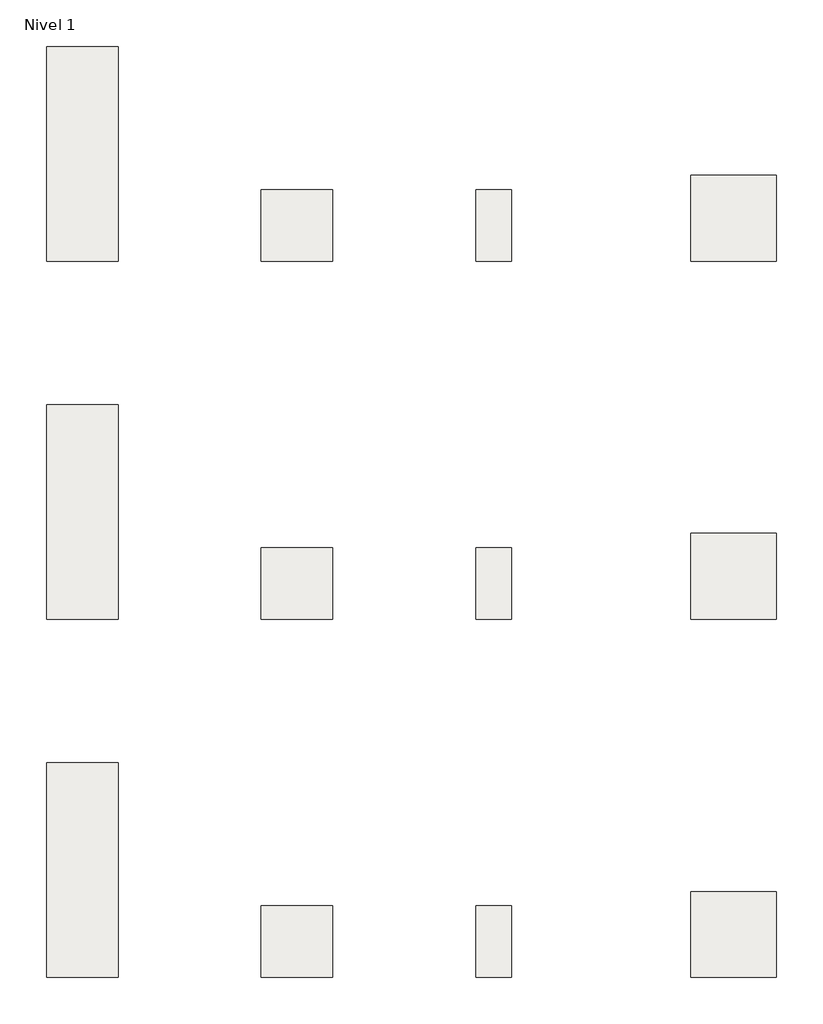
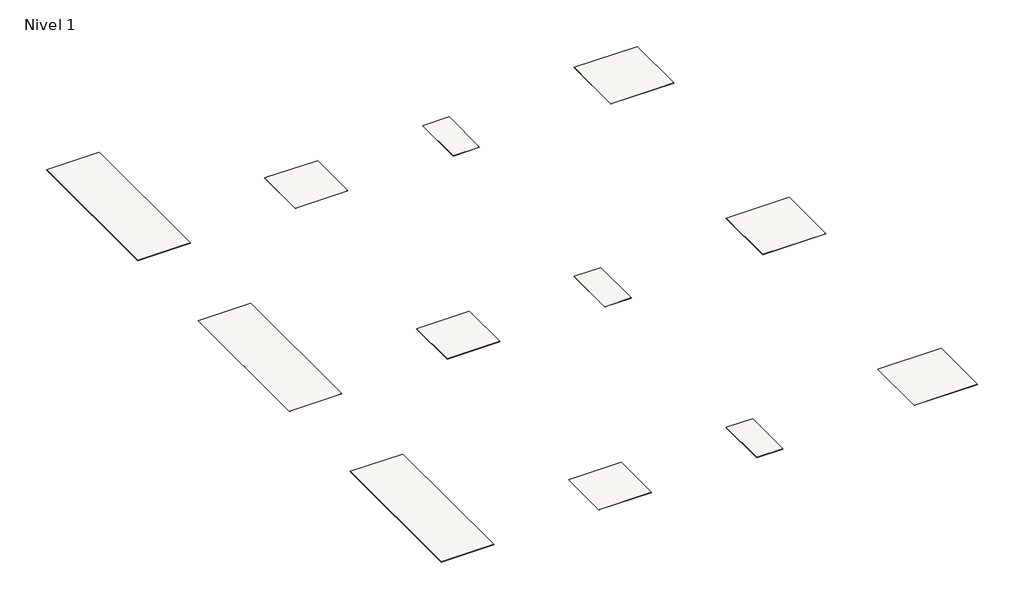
# One storey: 12 slabs.
"""IFC4 building model written with IfcOpenShell, lengths in millimetres."""

import ifcopenshell
import ifcopenshell.guid

model = None  # the IFC model being written
_history = None  # IfcOwnerHistory: only IFC2X3 demands one
_inside = {}  # id of a spatial element -> (the spatial element, [elements in it])
_under = {}  # id of a project, library or spatial element -> (it, [spatial elements below it])
_declared = {}  # id of a project -> (the project, [libraries it declares])
_typed = {}  # id of a type object -> (the type object, [elements of that type])
_made_of = {}  # id of a material, layer set ... -> (it, [elements and type objects made of it])


def new_model(schema):
    """Start an empty IFC model of exactly this schema.

    Asked for "IFC4X3", IfcOpenShell would pick the latest addendum, in which some entities
    have other attributes; the version numbers below select the first issue.
    IFC2X3 requires an IfcOwnerHistory on every rooted entity: one is made here for all.
    """
    global model, _history
    if schema == "IFC4X3":
        model = ifcopenshell.file(schema_version=(4, 3, 0, 0))
    else:
        model = ifcopenshell.file(schema=schema)
    _inside.clear()
    _under.clear()
    _declared.clear()
    _typed.clear()
    _made_of.clear()
    _history = None
    if model.schema == "IFC2X3":
        org = make("IfcOrganization", Name="unknown")
        user = make(
            "IfcPersonAndOrganization",
            ThePerson=make("IfcPerson", FamilyName="unknown"),
            TheOrganization=org,
        )
        app = make(
            "IfcApplication",
            ApplicationDeveloper=org,
            Version="unknown",
            ApplicationFullName="unknown",
            ApplicationIdentifier="unknown",
        )
        _history = make(
            "IfcOwnerHistory",
            OwningUser=user,
            OwningApplication=app,
            ChangeAction="ADDED",
            CreationDate=0,
        )
    return model


def make(cls, **values):
    """One entity of the class cls with the attributes given. An attribute that is None is left unset."""
    return model.create_entity(
        cls, **{name: value for name, value in values.items() if value is not None}
    )


def rooted(cls, **values):
    """An entity with a GlobalId (a new one), such as an element, a storey or a relation."""
    return make(cls, GlobalId=ifcopenshell.guid.new(), OwnerHistory=_history, **values)


def si_unit(unit_type, name, prefix=None):
    """IfcSIUnit, for example si_unit("LENGTHUNIT", "METRE", prefix="MILLI")."""
    return make("IfcSIUnit", UnitType=unit_type, Prefix=prefix, Name=name)


def assignment(units):
    """IfcUnitAssignment: the units of a project."""
    return None if units is None else make("IfcUnitAssignment", Units=units)


def point(xyz):
    """IfcCartesianPoint."""
    return None if xyz is None else make("IfcCartesianPoint", Coordinates=xyz)


def direction(xyz):
    """IfcDirection."""
    return None if xyz is None else make("IfcDirection", DirectionRatios=xyz)


def frame(location, z_axis=None, x_axis=None):
    """IfcAxis2Placement3D, a coordinate frame: its origin and axes. An axis left out is left unset."""
    return make(
        "IfcAxis2Placement3D",
        Location=point(location),
        Axis=direction(z_axis),
        RefDirection=direction(x_axis),
    )


def origin():
    """The frame at (0, 0, 0) with its axes left unset."""
    return frame((0.0, 0.0, 0.0))


def place(relative_to, where):
    """IfcLocalPlacement: puts the frame where relative to a parent placement (None: the world)."""
    return make(
        "IfcLocalPlacement", PlacementRelTo=relative_to, RelativePlacement=where
    )


def context(
    kind, dimensions, precision=None, world=None, true_north=None, identifier=None
):
    """IfcGeometricRepresentationContext, for example the 3D "Model" context."""
    return make(
        "IfcGeometricRepresentationContext",
        ContextIdentifier=identifier,
        ContextType=kind,
        CoordinateSpaceDimension=dimensions,
        Precision=precision,
        WorldCoordinateSystem=world,
        TrueNorth=true_north,
    )


def project(units=None, contexts=None):
    """IfcProject with its units and contexts."""
    return rooted(
        "IfcProject",
        Name="project",
        RepresentationContexts=contexts,
        UnitsInContext=assignment(units),
    )


def spatial(cls, under=None, at=None, **own):
    """A site, building, storey or space (cls), placed at a placement, below another one or the project."""
    s = rooted(cls, ObjectPlacement=at, **own)
    if under is not None:
        _under.setdefault(under.id(), (under, []))[1].append(s)
    return s


def polyline(points):
    """IfcPolyline through the points."""
    return make("IfcPolyline", Points=[point(p) for p in points])


def outline(outer, holes=None, kind="AREA"):
    """IfcArbitraryClosedProfileDef: a profile drawn as a closed curve; with holes, ...WithVoids."""
    if holes is None:
        return make("IfcArbitraryClosedProfileDef", ProfileType=kind, OuterCurve=outer)
    return make(
        "IfcArbitraryProfileDefWithVoids",
        ProfileType=kind,
        OuterCurve=outer,
        InnerCurves=holes,
    )


def extrude(swept, where, along, depth):
    """IfcExtrudedAreaSolid: the profile swept, set in the frame where, extruded along a direction by depth."""
    return make(
        "IfcExtrudedAreaSolid",
        SweptArea=swept,
        Position=where,
        ExtrudedDirection=direction(along),
        Depth=depth,
    )


def shape(context_of_items, identifier, shape_type, items):
    """IfcShapeRepresentation: the items that make up one representation, for example the "Body"."""
    return make(
        "IfcShapeRepresentation",
        ContextOfItems=context_of_items,
        RepresentationIdentifier=identifier,
        RepresentationType=shape_type,
        Items=items,
    )


def made_of(thing, what):
    """Note that an element or type object is made of a material, layer set ...; save() writes the relation."""
    if what is not None:
        _made_of.setdefault(what.id(), (what, []))[1].append(thing)
    return thing


def element(
    cls,
    number,
    at=None,
    inside=None,
    cuts=None,
    type_object=None,
    material=None,
    context=None,
    identifier="Body",
    shape_type=None,
    held_by="IfcProductDefinitionShape",
    body=None,
    shapes=None,
    **own,
):
    """One element of the class cls, such as IfcWall. Its Tag is "e" and its number.

    at: its placement. inside: the storey or other place that contains it. cuts: it is an
    opening in that element (IfcRelVoidsElement). A single representation is given by context,
    identifier, shape_type and body (its items); several are given by shapes. held_by: the class
    of the entity that holds the representations. save() writes the other relations.
    """
    e = rooted(cls, Tag="e%d" % number, ObjectPlacement=at, **own)
    if body is not None:
        shapes = [shape(context, identifier, shape_type, body)]
    if shapes is not None:
        e.Representation = make(held_by, Representations=shapes)
    if inside is not None:
        _inside.setdefault(inside.id(), (inside, []))[1].append(e)
    if cuts is not None:
        rooted(
            "IfcRelVoidsElement", RelatingBuildingElement=cuts, RelatedOpeningElement=e
        )
    if type_object is not None:
        _typed.setdefault(type_object.id(), (type_object, []))[1].append(e)
    return made_of(e, material)


def aggregate(whole, parts):
    """IfcRelAggregates: a whole, such as a stair, and the parts it consists of."""
    return rooted("IfcRelAggregates", RelatingObject=whole, RelatedObjects=parts)


def save(model, path):
    """Write the relations noted so far, then the file.

    IfcRelAggregates (storeys below a building ...), IfcRelContainedInSpatialStructure (elements
    in a storey), IfcRelDefinesByType, IfcRelAssociatesMaterial and IfcRelDeclares: one each for
    every whole, place, type object, material and project.
    """
    for whole, parts in _under.values():
        aggregate(whole, parts)
    for where, things in _inside.values():
        rooted(
            "IfcRelContainedInSpatialStructure",
            RelatedElements=things,
            RelatingStructure=where,
        )
    for kind, things in _typed.values():
        rooted("IfcRelDefinesByType", RelatedObjects=things, RelatingType=kind)
    for what, things in _made_of.values():
        rooted("IfcRelAssociatesMaterial", RelatedObjects=things, RelatingMaterial=what)
    for by, libraries in _declared.values():
        rooted("IfcRelDeclares", RelatingContext=by, RelatedDefinitions=libraries)
    model.write(path)


model = new_model("IFC4")

# Units and contexts
model_context = context("Model", 3, world=origin())
ifc_project = project(units=[si_unit("LENGTHUNIT", "METRE", prefix="MILLI")], contexts=[model_context])

# Site, building, storey
site = spatial("IfcSite", under=ifc_project)
building = spatial("IfcBuilding", under=site)
storey = spatial("IfcBuildingStorey", under=building, Name="Nivel 1", Elevation=0.0)

# Slabs
placement = place(None, origin())
element("IfcSlab", 1, ObjectType="Lava Corten 100X300 5,6", at=placement, inside=storey, context=model_context, shape_type="SweptSolid", body=[
    extrude(outline(polyline([(0.0, 3000.0), (1000.0, 3000.0), (1000.0, 0.0), (0.0, 0.0), (0.0, 3000.0)])), frame((0.0, 0.0, -5.6), z_axis=(0.0, 0.0, 1.0), x_axis=(1.0, 0.0, 0.0)), (0.0, 0.0, 1.0), 5.6),
])
element("IfcSlab", 2, ObjectType="Lava Corten 100X100 5,6", at=placement, inside=storey, context=model_context, shape_type="SweptSolid", body=[
    extrude(outline(polyline([(3000.0, 1000.0), (4000.0, 1000.0), (4000.0, 0.0), (3000.0, 0.0), (3000.0, 1000.0)])), frame((0.0, 0.0, -5.6), z_axis=(0.0, 0.0, 1.0), x_axis=(1.0, 0.0, 0.0)), (0.0, 0.0, 1.0), 5.6),
])
element("IfcSlab", 3, ObjectType="Lava Corten 100X50 5,6", at=placement, inside=storey, context=model_context, shape_type="SweptSolid", body=[
    extrude(outline(polyline([(6000.0, 1000.0), (6500.0, 1000.0), (6500.0, 0.0), (6000.0, 0.0), (6000.0, 1000.0)])), frame((0.0, 0.0, -5.6), z_axis=(0.0, 0.0, 1.0), x_axis=(1.0, 0.0, 0.0)), (0.0, 0.0, 1.0), 5.6),
])
element("IfcSlab", 4, ObjectType="Lava Marron 100X300 5,6", at=placement, inside=storey, context=model_context, shape_type="SweptSolid", body=[
    extrude(outline(polyline([(0.0, -2000.0), (1000.0, -2000.0), (1000.0, -5000.0), (0.0, -5000.0), (0.0, -2000.0)])), frame((0.0, 0.0, -5.6), z_axis=(0.0, 0.0, 1.0), x_axis=(1.0, 0.0, 0.0)), (0.0, 0.0, 1.0), 5.6),
])
element("IfcSlab", 5, ObjectType="Lava Marron 100X100 5,6", at=placement, inside=storey, context=model_context, shape_type="SweptSolid", body=[
    extrude(outline(polyline([(3000.0, -4000.0), (4000.0, -4000.0), (4000.0, -5000.0), (3000.0, -5000.0), (3000.0, -4000.0)])), frame((0.0, 0.0, -5.6), z_axis=(0.0, 0.0, 1.0), x_axis=(1.0, 0.0, 0.0)), (0.0, 0.0, 1.0), 5.6),
])
element("IfcSlab", 6, ObjectType="Lava Marron 100X50 5,6", at=placement, inside=storey, context=model_context, shape_type="SweptSolid", body=[
    extrude(outline(polyline([(6000.0, -4000.0), (6500.0, -4000.0), (6500.0, -5000.0), (6000.0, -5000.0), (6000.0, -4000.0)])), frame((0.0, 0.0, -5.6), z_axis=(0.0, 0.0, 1.0), x_axis=(1.0, 0.0, 0.0)), (0.0, 0.0, 1.0), 5.6),
])
element("IfcSlab", 7, ObjectType="Lava Iron 100X300 5,6", at=placement, inside=storey, context=model_context, shape_type="SweptSolid", body=[
    extrude(outline(polyline([(0.0, -7000.0), (1000.0, -7000.0), (1000.0, -10000.0), (0.0, -10000.0), (0.0, -7000.0)])), frame((0.0, 0.0, -5.6), z_axis=(0.0, 0.0, 1.0), x_axis=(1.0, 0.0, 0.0)), (0.0, 0.0, 1.0), 5.6),
])
element("IfcSlab", 8, ObjectType="Lava Iron 100X100 5,6", at=placement, inside=storey, context=model_context, shape_type="SweptSolid", body=[
    extrude(outline(polyline([(3000.0, -9000.0), (4000.0, -9000.0), (4000.0, -10000.0), (3000.0, -10000.0), (3000.0, -9000.0)])), frame((0.0, 0.0, -5.6), z_axis=(0.0, 0.0, 1.0), x_axis=(1.0, 0.0, 0.0)), (0.0, 0.0, 1.0), 5.6),
])
element("IfcSlab", 9, ObjectType="Lava Iron 100X50 5,6", at=placement, inside=storey, context=model_context, shape_type="SweptSolid", body=[
    extrude(outline(polyline([(6000.0, -9000.0), (6500.0, -9000.0), (6500.0, -10000.0), (6000.0, -10000.0), (6000.0, -9000.0)])), frame((0.0, 0.0, -5.6), z_axis=(0.0, 0.0, 1.0), x_axis=(1.0, 0.0, 0.0)), (0.0, 0.0, 1.0), 5.6),
])
element("IfcSlab", 10, ObjectType="Lava Corten 120X120 5,6", at=placement, inside=storey, context=model_context, shape_type="SweptSolid", body=[
    extrude(outline(polyline([(9000.0, 1200.0), (10200.0, 1200.0), (10200.0, 0.0), (9000.0, 0.0), (9000.0, 1200.0)])), frame((0.0, 0.0, -5.6), z_axis=(0.0, 0.0, 1.0), x_axis=(1.0, 0.0, 0.0)), (0.0, 0.0, 1.0), 5.6),
])
element("IfcSlab", 11, ObjectType="Lava Marron 120X120 5,6", at=placement, inside=storey, context=model_context, shape_type="SweptSolid", body=[
    extrude(outline(polyline([(9000.0, -3800.0), (10200.0, -3800.0), (10200.0, -5000.0), (9000.0, -5000.0), (9000.0, -3800.0)])), frame((0.0, 0.0, -5.6), z_axis=(0.0, 0.0, 1.0), x_axis=(1.0, 0.0, 0.0)), (0.0, 0.0, 1.0), 5.6),
])
element("IfcSlab", 12, ObjectType="Lava Iron 120X120 5,6", at=placement, inside=storey, context=model_context, shape_type="SweptSolid", body=[
    extrude(outline(polyline([(9000.0, -8800.0), (10200.0, -8800.0), (10200.0, -10000.0), (9000.0, -10000.0), (9000.0, -8800.0)])), frame((0.0, 0.0, -5.6), z_axis=(0.0, 0.0, 1.0), x_axis=(1.0, 0.0, 0.0)), (0.0, 0.0, 1.0), 5.6),
])

save(model, "model.ifc")
